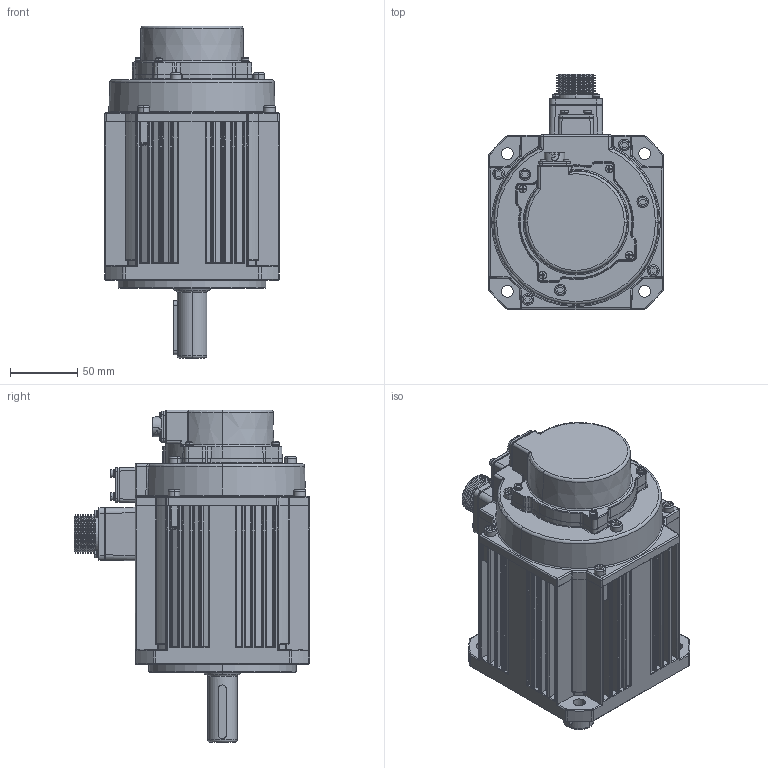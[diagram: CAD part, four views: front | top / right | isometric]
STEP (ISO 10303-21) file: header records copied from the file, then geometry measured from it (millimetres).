
FILE_DESCRIPTION (( 'STEP AP203' ), '1' );
FILE_NAME ('G3-130-11.46NM刹车电机三维图.STEP', '2022-12-19T06:40:24', ( '微软用户' ), ( '微软中国' ), 'SwSTEP 2.0', 'SolidWorks 2016', '' );
FILE_SCHEMA (( 'CONFIG_CONTROL_DESIGN' ));
Products named in the file (1): G3-130-11.46NM刹车电机三维图
Bounding box: 130 x 175.3 x 247.5 mm (x, y, z)
Volume: 732996.4 mm3; surface area: 332355 mm2
Topology: 35 solids, 35 shells, 3417 faces, 8545 edges, 5310 vertices
Faces by surface type: plane 1101, cylinder 996, cone 576, bspline 333, torus 307, sphere 104
Entity records: 114828 total; most frequent: CARTESIAN_POINT 34893, ORIENTED_EDGE 16822, DIRECTION 16690, EDGE_CURVE 8411, AXIS2_PLACEMENT_3D 6388, VERTEX_POINT 5278, VECTOR 3914, LINE 3914
